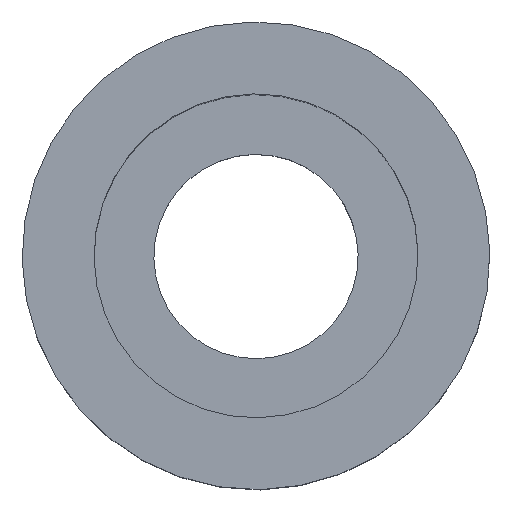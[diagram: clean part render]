
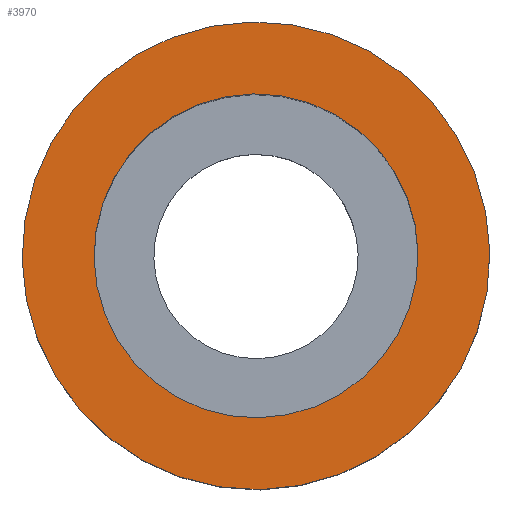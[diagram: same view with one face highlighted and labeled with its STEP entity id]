
A CAD part, top view. The second image highlights one B-rep face of the part: STEP entity #3970.
In plain terms, the highlighted planar face has unit normal (0, 0, 1) as drawn and (1, 0, 0) by its records, which use the part's own axes.
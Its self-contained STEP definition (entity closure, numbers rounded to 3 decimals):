
#3620=CARTESIAN_POINT('',(94.151,31.957,0.));
#3630=DIRECTION('',(1.,-0.,0.));
#3640=DIRECTION('',(0.,1.,0.));
#3650=AXIS2_PLACEMENT_3D('',#3620,#3630,#3640);
#3660=PLANE('',#3650);
#3670=CARTESIAN_POINT('',(94.151,46.757,0.));
#3680=DIRECTION('',(1.,0.,0.));
#3690=DIRECTION('',(0.,0.,1.));
#3700=AXIS2_PLACEMENT_3D('',#3670,#3680,#3690);
#3710=CIRCLE('',#3700,11.1);
#3720=CARTESIAN_POINT('',(94.151,46.757,11.1));
#3730=VERTEX_POINT('',#3720);
#3740=CARTESIAN_POINT('',(94.151,46.757,-11.1));
#3750=VERTEX_POINT('',#3740);
#3760=EDGE_CURVE('',#3730,#3750,#3710,.T.);
#3770=ORIENTED_EDGE('',*,*,#3760,.F.);
#3780=EDGE_CURVE('',#3750,#3730,#3710,.T.);
#3790=ORIENTED_EDGE('',*,*,#3780,.F.);
#3800=EDGE_LOOP('',(#3790,#3770));
#3810=FACE_BOUND('',#3800,.T.);
#3820=CARTESIAN_POINT('',(94.151,46.757,0.));
#3830=DIRECTION('',(-1.,0.,0.));
#3840=DIRECTION('',(0.,1.,0.));
#3850=AXIS2_PLACEMENT_3D('',#3820,#3830,#3840);
#3860=CIRCLE('',#3850,16.025);
#3870=CARTESIAN_POINT('',(94.151,62.782,0.));
#3880=VERTEX_POINT('',#3870);
#3890=CARTESIAN_POINT('',(94.151,30.732,0.));
#3900=VERTEX_POINT('',#3890);
#3910=EDGE_CURVE('',#3880,#3900,#3860,.T.);
#3920=ORIENTED_EDGE('',*,*,#3910,.F.);
#3930=EDGE_CURVE('',#3900,#3880,#3860,.T.);
#3940=ORIENTED_EDGE('',*,*,#3930,.F.);
#3950=EDGE_LOOP('',(#3940,#3920));
#3960=FACE_OUTER_BOUND('',#3950,.T.);
#3970=ADVANCED_FACE('',(#3810,#3960),#3660,.T.);
